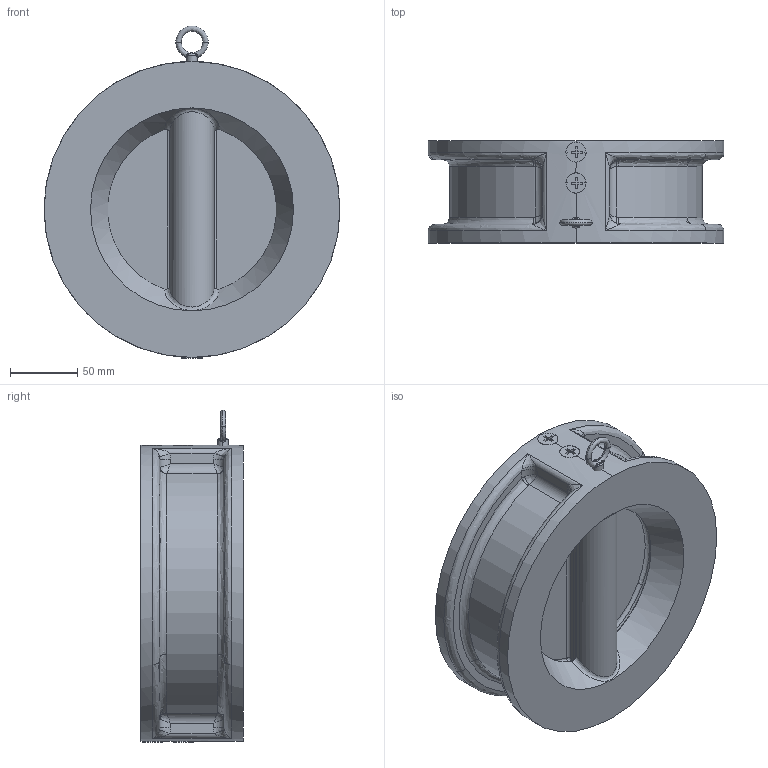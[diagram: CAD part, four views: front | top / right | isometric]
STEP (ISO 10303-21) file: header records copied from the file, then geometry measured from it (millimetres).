
FILE_DESCRIPTION (( 'STEP AP203' ), '1' );
FILE_NAME ('00.STEP', '2017-04-03T23:42:04', ( 'User' ), ( 'shendu' ), 'SwSTEP 2.0', 'SolidWorks 2015', '' );
FILE_SCHEMA (( 'CONFIG_CONTROL_DESIGN' ));
Length unit declared in the file: millimetre
Products named in the file (1): 00
Bounding box: 220 x 76 x 246.8 mm (x, y, z)
Volume: 1269643.8 mm3; surface area: 264363 mm2
Topology: 17 solids, 17 shells, 493 faces, 1176 edges, 684 vertices
Faces by surface type: bspline 172, cylinder 161, plane 130, cone 30
Entity records: 133286 total; most frequent: CARTESIAN_POINT 123081, ORIENTED_EDGE 2306, DIRECTION 1772, EDGE_CURVE 1153, VERTEX_POINT 684, AXIS2_PLACEMENT_3D 663, EDGE_LOOP 517, ADVANCED_FACE 493
